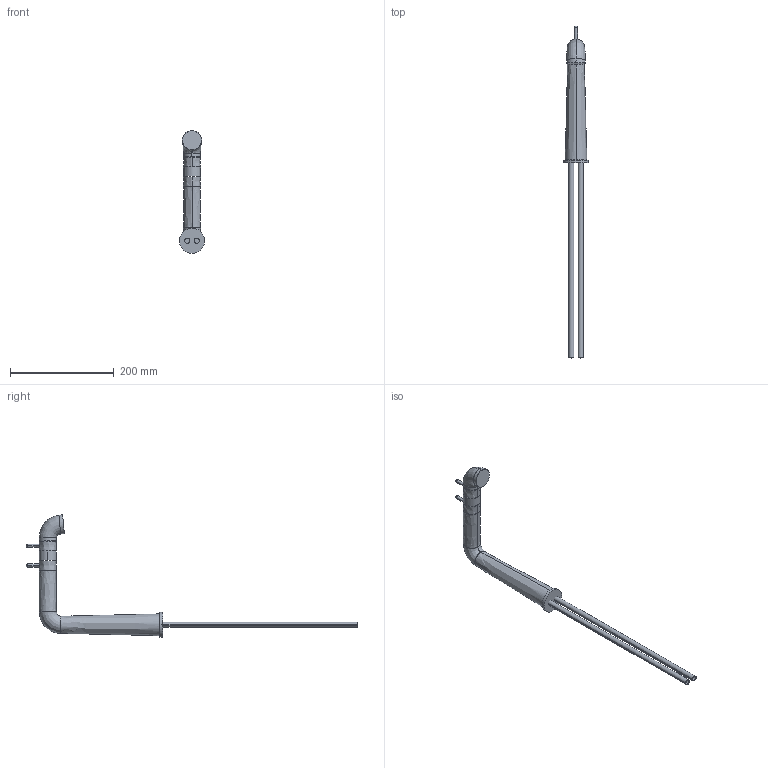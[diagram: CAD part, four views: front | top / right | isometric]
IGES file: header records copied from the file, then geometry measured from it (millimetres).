
Start section:  PTC IGES file: 73000_web.igs
Global section: file name: 73000_web.igs; native system: Creo Parametric by PTC Inc.; preprocessor: 2018190; author: jaje1; organization: Unknown; date: 20181127.151031; units: millimetre
Bounding box: 48.2 x 640.73 x 236.66 mm (x, y, z)
Surface area: 105261.2 mm2 (no closed solid volume)
Topology: 0 solids, 0 shells, 39 faces, 268 edges, 320 vertices
Faces by surface type: revolution 24, bspline 15
